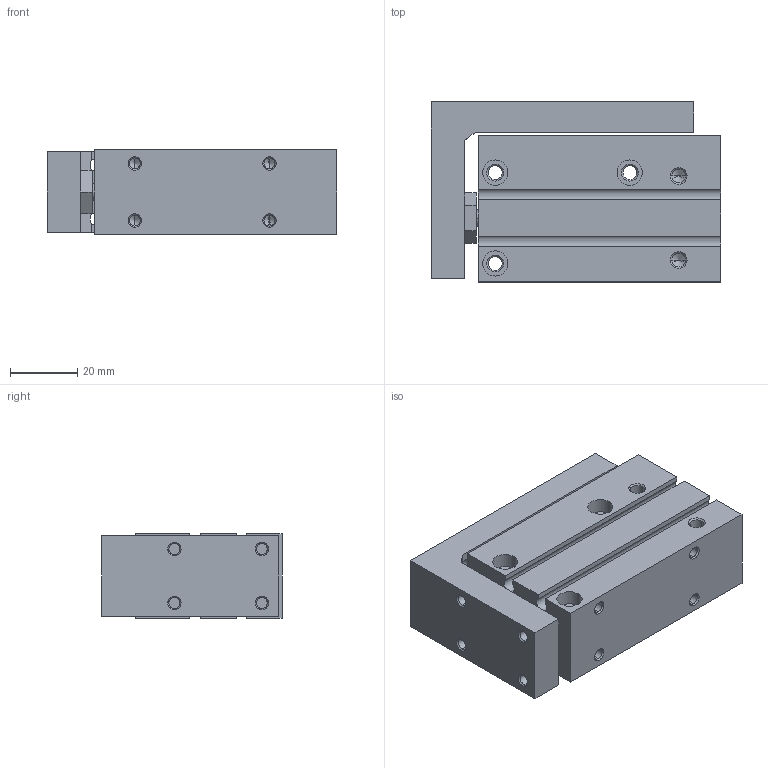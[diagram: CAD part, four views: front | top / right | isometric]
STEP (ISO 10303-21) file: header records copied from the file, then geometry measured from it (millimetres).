
FILE_DESCRIPTION (( 'STEP AP203' ), '1' );
FILE_NAME ('CXH16-30.STEP', '2020-04-16T18:11:49', ( '' ), ( '' ), 'SwSTEP 2.0', 'SolidWorks 2019', '' );
FILE_SCHEMA (( 'CONFIG_CONTROL_DESIGN' ));
Length unit declared in the file: millimetre
Products named in the file (1): CXH16-30
Bounding box: 86 x 53.5 x 25 mm (x, y, z)
Volume: 92453.8 mm3; surface area: 30399.9 mm2
Topology: 2 solids, 2 shells, 208 faces, 495 edges, 286 vertices
Faces by surface type: cone 88, cylinder 76, plane 44
Entity records: 5928 total; most frequent: DIRECTION 1093, CARTESIAN_POINT 1004, ORIENTED_EDGE 934, EDGE_CURVE 467, AXIS2_PLACEMENT_3D 421, VERTEX_POINT 286, EDGE_LOOP 253, LINE 251
